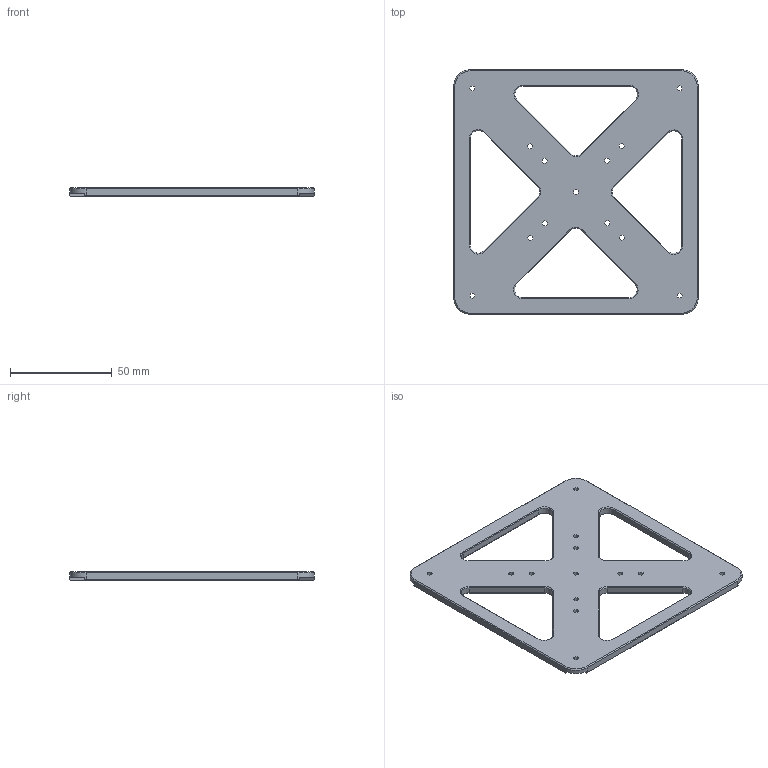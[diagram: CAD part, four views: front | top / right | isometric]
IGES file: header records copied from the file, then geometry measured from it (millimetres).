
Start section: 3D InterOp IGES (Version 18 0 1), Spatial Corp. Copyright (c) 1999-2007.
Global section: file name: NoName; native system: Spatial Corp.; preprocessor: 3D InterOp ACIS/IGES; author: Noname; organization: Noname; date: 20100706.214027; units: millimetre
Bounding box: 120 x 120 x 4 mm (x, y, z)
Volume: 33045.2 mm3; surface area: 23441.7 mm2
Topology: 1 solids, 1 shells, 196 faces, 525 edges, 337 vertices
Faces by surface type: bspline 196
